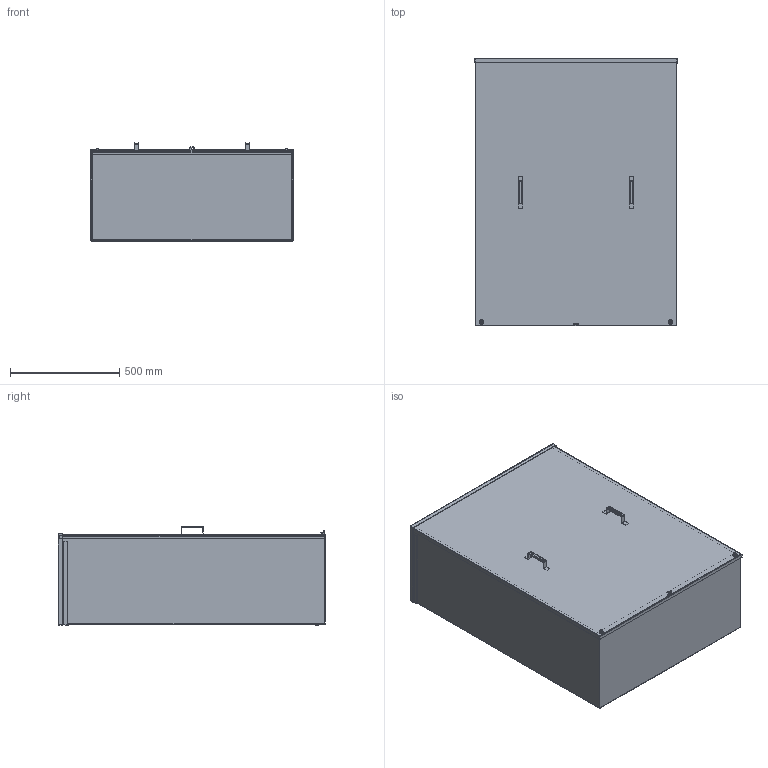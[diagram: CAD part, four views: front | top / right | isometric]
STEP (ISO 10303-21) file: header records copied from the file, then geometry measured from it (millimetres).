
FILE_DESCRIPTION((''),'1');
FILE_NAME('8','2001-04-17T',('jlue'),(''),'PRO/ENGINEER BY PARAMETRIC TECHNOLOGY CORPORATION, 9846','PRO/ENGINEER BY PARAMETRIC TECHNOLOGY CORPORATION, 9846','');
FILE_SCHEMA(('CONFIG_CONTROL_DESIGN'));
Length unit declared in the file: inch
Products named in the file (1): 8
Bounding box: 927.1 x 1226.06 x 450.39 mm (x, y, z)
Surface area: 8293408.2 mm2 (no closed solid volume)
Topology: 0 solids, 0 shells, 246 faces, 1343 edges, 1348 vertices
Faces by surface type: plane 157, cylinder 73, torus 8, sphere 4, cone 4
Entity records: 6885 total; most frequent: CARTESIAN_POINT 1338, COMPOSITE_CURVE_SEGMENT 1310, DIRECTION 1284, TRIMMED_CURVE 618, VECTOR 444, LINE 444, AXIS2_PLACEMENT_3D 420, CURVE_BOUNDED_SURFACE 246
